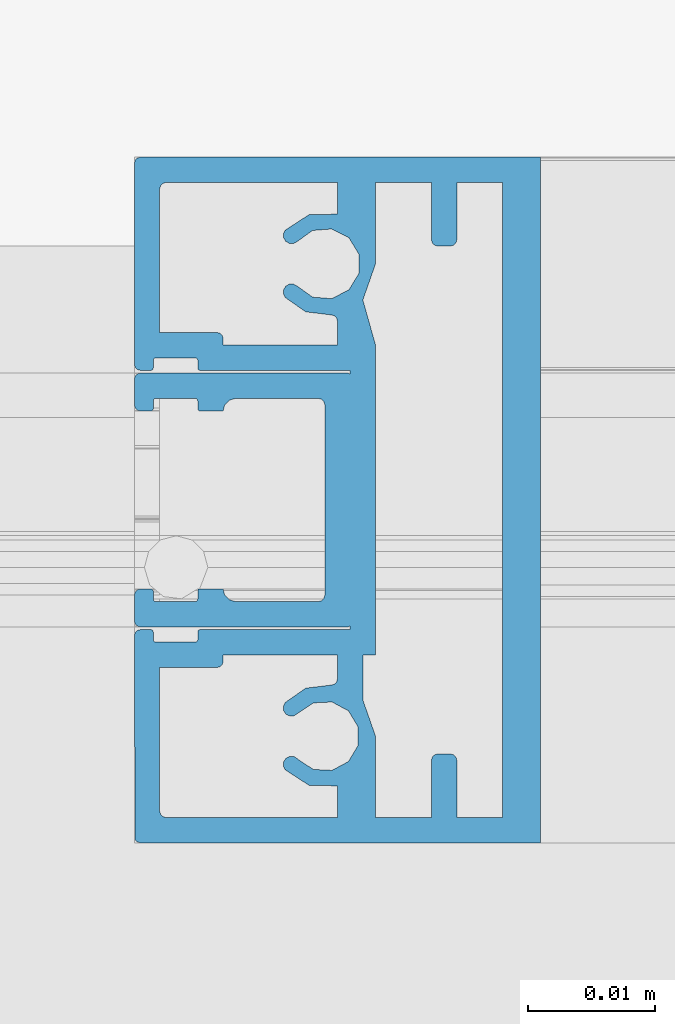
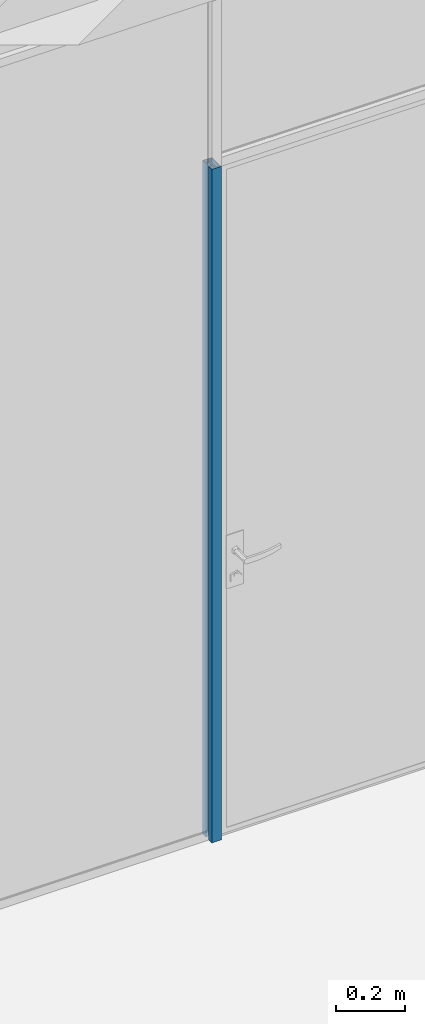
# One storey, part 85 of 387: 1 building element part, 2 elements without a shape of their own.
"""IFC2X3 building model written with IfcOpenShell, lengths in millimetres."""

from ifc_helpers import new_model, entity, si_unit, converted_unit, derived_unit, money_unit, direction, frame, origin_with_axes, place, context, subcontext, project, spatial, faceted_brep, source, transform, mapped, material, type_object, element, aggregate, save


model = new_model("IFC2X3")

# Units and contexts
model_context = context("Model", 3, precision=0.01, world=origin_with_axes(), true_north=direction((0.0, 1.0)))
body_context = subcontext(model_context, "Body", "Model", "MODEL_VIEW")
ifc_project = project(units=[si_unit("LENGTHUNIT", "METRE", prefix="MILLI"), si_unit("AREAUNIT", "SQUARE_METRE"), si_unit("VOLUMEUNIT", "CUBIC_METRE"), converted_unit("PLANEANGLEUNIT", "DEGREE", entity("IfcPlaneAngleMeasure", 0.0174532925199), si_unit("PLANEANGLEUNIT", "RADIAN"), dimensions=[0, 0, 0, 0, 0, 0, 0]), si_unit("SOLIDANGLEUNIT", "STERADIAN"), money_unit("EUR"), converted_unit("TIMEUNIT", "Year", entity("IfcTimeMeasure", 31556926.0), si_unit("TIMEUNIT", "SECOND"), dimensions=[0, 0, 1, 0, 0, 0, 0]), si_unit("MASSUNIT", "GRAM", prefix="KILO"), si_unit("THERMODYNAMICTEMPERATUREUNIT", "DEGREE_CELSIUS"), si_unit("LUMINOUSINTENSITYUNIT", "LUMEN"), si_unit("ENERGYUNIT", "JOULE", prefix="MEGA"), derived_unit("THERMALCONDUCTANCEUNIT", [(si_unit("POWERUNIT", "WATT"), 1), (si_unit("LENGTHUNIT", "METRE"), -1), (si_unit("THERMODYNAMICTEMPERATUREUNIT", "KELVIN"), -1)]), derived_unit("SPECIFICHEATCAPACITYUNIT", [(si_unit("ENERGYUNIT", "JOULE"), 1), (si_unit("MASSUNIT", "GRAM", prefix="KILO"), -1), (si_unit("THERMODYNAMICTEMPERATUREUNIT", "KELVIN"), -1)]), derived_unit("MASSDENSITYUNIT", [(si_unit("MASSUNIT", "GRAM", prefix="KILO"), 1), (si_unit("VOLUMEUNIT", "CUBIC_METRE"), -1)])], contexts=[model_context])

# Site, building, storey
site_placement = place(None, origin_with_axes())
site = spatial("IfcSite", under=ifc_project, at=site_placement, Name="Puškini 31, Narva", CompositionType="ELEMENT")
building_placement = place(site_placement, origin_with_axes())
building = spatial("IfcBuilding", under=site, at=building_placement, Name="Narva Riigigümnaasium", CompositionType="ELEMENT")
storey_placement = place(building_placement, frame((0.0, 0.0, 2640.0), z_axis=(0.0, 0.0, 1.0), x_axis=(1.0, 0.0, 0.0)))
storey = spatial("IfcBuildingStorey", under=building, at=storey_placement, Name="2.korrus +2.64", CompositionType="ELEMENT", Elevation=2640.0)

# Curtain wall, member, building element part
curtain_wall_type = type_object("IfcCurtainWallType", Name="Curtain Wall Type", PredefinedType="NOTDEFINED")
curtain_wall_placement = place(storey_placement, frame((26984.7499996, 181679.973357, -1.33722362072e-05), z_axis=(0.0, 0.0, 1.0), x_axis=(1.0, 0.0, 0.0)))
curtain_wall = element("IfcCurtainWall", 1, at=curtain_wall_placement, inside=storey, type_object=curtain_wall_type, Name="G-SKLF-18")
member_type = type_object("IfcMemberType", Name="32 x 27", PredefinedType="MULLION")
member_placement = place(curtain_wall_placement, frame((345.25, 9.77706804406e-09, 0.0), z_axis=(0.0, 0.0, 1.0), x_axis=(1.0, 0.0, 0.0)))
member = element("IfcMember", 2, at=member_placement, type_object=member_type, Name="G-SKLF-18-raam", ObjectType="MULLION")
aggregate(curtain_wall, [member])
ifc_material = material(Name="ET-04_Alumiinium")
shared_shape = source(origin_with_axes(), body_context, "Body", "Brep", [
    faceted_brep([(31.933012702, 26.75, 0.0), (31.933012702, 26.75, 2400.00001337), (32.0, 10.7, 2400.00001337), (32.0, 10.7, 0.0), (31.7500000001, 26.9330127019, 0.0), (31.7500000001, 26.9330127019, 2400.00001337), (31.5, 27.0, 2400.00001337), (0.0, 27.0, 2400.00001337), (0.0, -27.0, 2400.00001337), (31.5, -27.0, 2400.00001337), (31.75, -26.9330127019, 2400.00001337), (31.9330127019, -26.75, 2400.00001337), (32.0, -26.5, 2400.00001337), (32.0, -10.7, 2400.00001337), (31.9330127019, -10.45, 2400.00001337), (31.75, -10.2669872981, 2400.00001337), (31.5, -10.2, 2400.00001337), (30.7, -10.2, 2400.00001337), (30.6, -10.2267949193, 2400.00001337), (30.5267949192, -10.3, 2400.00001337), (30.5, -10.4, 2400.00001337), (30.5, -11.0, 2400.00001337), (30.4732050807, -11.1, 2400.00001337), (30.4, -11.1732050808, 2400.00001337), (30.3, -11.2, 2400.00001337), (27.2, -11.2, 2400.00001337), (27.1, -11.1732050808, 2400.00001337), (27.0267949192, -11.1, 2400.00001337), (27.0, -11.0, 2400.00001337), (27.0, -10.4000000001, 2400.00001337), (26.9732050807, -10.3000000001, 2400.00001337), (26.8999999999, -10.2267949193, 2400.00001337), (26.7999999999, -10.2000000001, 2400.00001337), (15.0, -10.2, 2400.00001337), (15.0, -9.80000000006, 2400.00001337), (15.0, 9.79999999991, 2400.00001337), (15.0, 10.2, 2400.00001337), (26.8, 10.2, 2400.00001337), (26.9, 10.2267949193, 2400.00001337), (26.9732050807, 10.3, 2400.00001337), (27.0, 10.4, 2400.00001337), (27.0, 11.0, 2400.00001337), (27.0267949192, 11.1, 2400.00001337), (27.1, 11.1732050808, 2400.00001337), (27.2, 11.2, 2400.00001337), (30.3, 11.2, 2400.00001337), (30.4, 11.1732050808, 2400.00001337), (30.4732050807, 11.1, 2400.00001337), (30.5, 11.0, 2400.00001337), (30.5, 10.4, 2400.00001337), (30.5267949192, 10.3, 2400.00001337), (30.6, 10.2267949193, 2400.00001337), (30.7, 10.2, 2400.00001337), (31.5, 10.2, 2400.00001337), (31.75, 10.2669872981, 2400.00001337), (31.9330127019, 10.45, 2400.00001337), (30.0, -13.2, 2400.00001337), (29.9999999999, -24.5, 2400.00001337), (29.9330127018, -24.75, 2400.00001337), (29.7499999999, -24.9330127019, 2400.00001337), (29.4999999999, -25.0, 2400.00001337), (16.0, -25.0, 2400.00001337), (16.0, -22.5115214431, 2400.00001337), (18.2324976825, -22.4735254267, 2400.00001337), (20.1055788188, -21.2581832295, 2400.00001337), (20.2508755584, -20.9704117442, 2400.00001337), (20.2400388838, -20.6482221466, 2400.00001337), (20.0757343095, -20.3708639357, 2400.00001337), (19.7983760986, -20.2065593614, 2400.00001337), (19.476186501, -20.1957226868, 2400.00001337), (19.1884150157, -20.3410194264, 2400.00001337), (17.9594363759, -21.2262649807, 2400.00001337), (16.4491363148, -21.3404661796, 2400.00001337), (15.101017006, -20.6500876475, 2400.00001337), (14.3109559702, -19.3578602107, 2400.00001337), (14.3109559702, -17.8432486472, 2400.00001337), (15.101017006, -16.5510212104, 2400.00001337), (16.4491363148, -15.8606426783, 2400.00001337), (17.9594363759, -15.9748438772, 2400.00001337), (19.1884150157, -16.8600894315, 2400.00001337), (19.4768504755, -17.0081043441, 2400.00001337), (19.8009019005, -16.9984036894, 2400.00001337), (20.0799669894, -16.8334003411, 2400.00001337), (20.2446330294, -16.5541360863, 2400.00001337), (20.2539421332, -16.2300731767, 2400.00001337), (20.1055788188, -15.9418167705, 2400.00001337), (18.5025683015, -14.8194517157, 2400.00001337), (16.5604395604, -14.5796977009, 2400.00001337), (16.2857576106, -14.5351385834, 2400.00001337), (16.0774356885, -14.3506455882, 2400.00001337), (16.0, -14.0833640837, 2400.00001337), (16.0, -12.2, 2400.00001337), (25.0, -12.2, 2400.00001337), (25.0, -12.7, 2400.00001337), (25.0669872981, -12.95, 2400.00001337), (25.25, -13.1330127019, 2400.00001337), (25.5, -13.2, 2400.00001337), (30.0, 13.2, 2400.00001337), (25.5, 13.2, 2400.00001337), (25.25, 13.1330127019, 2400.00001337), (25.0669872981, 12.95, 2400.00001337), (25.0, 12.7, 2400.00001337), (25.0, 12.2, 2400.00001337), (16.0, 12.2, 2400.00001337), (16.0, 14.0833640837, 2400.00001337), (16.0774356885, 14.3506455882, 2400.00001337), (16.2857576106, 14.5351385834, 2400.00001337), (16.5604395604, 14.5796977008, 2400.00001337), (18.5025683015, 14.8194517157, 2400.00001337), (20.1055788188, 15.9418167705, 2400.00001337), (20.2591463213, 16.2452813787, 2400.00001337), (20.2384633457, 16.5847603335, 2400.00001337), (20.0491908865, 16.8673371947, 2400.00001337), (19.7431334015, 17.0156698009, 2400.00001337), (19.4040597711, 16.9891590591, 2400.00001337), (19.1247754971, 16.7950610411, 2400.00001337), (17.9010883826, 15.9799828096, 2400.00001337), (16.4324884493, 15.9094355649, 2400.00001337), (15.1363081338, 16.6034667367, 2400.00001337), (14.3808833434, 17.8648533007, 2400.00001337), (14.3808833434, 19.3351466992, 2400.00001337), (15.1363081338, 20.5965332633, 2400.00001337), (16.4324884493, 21.290564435, 2400.00001337), (17.9010883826, 21.2200171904, 2400.00001337), (19.1247754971, 20.4049389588, 2400.00001337), (19.4040367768, 20.2113893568, 2400.00001337), (19.7428001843, 20.185166, 2400.00001337), (20.0485211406, 20.3334326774, 2400.00001337), (20.2376817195, 20.6156853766, 2400.00001337), (20.2586063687, 20.9548173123, 2400.00001337), (20.1055788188, 21.2581832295, 2400.00001337), (18.2324976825, 22.4735254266, 2400.00001337), (16.0, 22.5115214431, 2400.00001337), (16.0, 25.0, 2400.00001337), (29.5, 25.0, 2400.00001337), (29.75, 24.9330127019, 2400.00001337), (29.9330127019, 24.75, 2400.00001337), (30.0, 24.5, 2400.00001337), (14.0, -15.7539501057, 2400.00001337), (13.8901098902, -16.0667028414, 2400.00001337), (13.0, -18.6, 2400.00001337), (13.0, -25.0, 2400.00001337), (8.59999999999, -25.0, 2400.00001337), (8.59999999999, -20.5, 2400.00001337), (8.53301270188, -20.25, 2400.00001337), (8.34999999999, -20.0669872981, 2400.00001337), (8.09999999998, -20.0, 2400.00001337), (7.1, -20.0000000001, 2400.00001337), (6.85, -20.0669872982, 2400.00001337), (6.66698729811, -20.25, 2400.00001337), (6.6, -20.5, 2400.00001337), (6.6, -25.0, 2400.00001337), (3.0, -25.0, 2400.00001337), (3.0, 25.0, 2400.00001337), (6.6, 25.0, 2400.00001337), (6.6, 20.5, 2400.00001337), (6.6669872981, 20.25, 2400.00001337), (6.85, 20.0669872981, 2400.00001337), (7.09999999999, 20.0, 2400.00001337), (8.09999999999, 20.0, 2400.00001337), (8.34999999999, 20.0669872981, 2400.00001337), (8.53301270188, 20.25, 2400.00001337), (8.59999999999, 20.5, 2400.00001337), (8.59999999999, 25.0, 2400.00001337), (13.0, 25.0, 2400.00001337), (13.0, 18.6, 2400.00001337), (13.8901098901, 16.0667028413, 2400.00001337), (14.0, 15.7539501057, 2400.00001337), (14.0, 12.2, 2400.00001337), (13.0, 12.2, 2400.00001337), (13.0, -12.2, 2400.00001337), (31.9330127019, 10.45, 0.0), (31.75, 10.2669872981, 0.0), (31.5, 10.2, 0.0), (30.7, 10.2, 0.0), (30.6, 10.2267949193, 0.0), (30.5267949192, 10.3, 0.0), (30.5, 10.4, 0.0), (30.5, 11.0, 0.0), (30.4732050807, 11.1, 0.0), (30.4, 11.1732050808, 0.0), (30.3, 11.2, 0.0), (27.2, 11.2, 0.0), (27.1, 11.1732050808, 0.0), (27.0267949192, 11.1, 0.0), (27.0, 11.0, 0.0), (27.0, 10.4, 0.0), (26.9732050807, 10.3, 0.0), (26.9, 10.2267949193, 0.0), (26.8, 10.2, 0.0), (15.0, 10.2, 0.0), (15.0, 9.79999999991, 0.0), (15.0, -9.80000000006, 0.0), (15.0, -10.2, 0.0), (26.7999999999, -10.2000000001, 0.0), (26.8999999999, -10.2267949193, 0.0), (26.9732050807, -10.3000000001, 0.0), (27.0, -10.4000000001, 0.0), (27.0, -11.0, 0.0), (27.0267949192, -11.1, 0.0), (27.1, -11.1732050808, 0.0), (27.2, -11.2, 0.0), (30.3, -11.2, 0.0), (30.4, -11.1732050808, 0.0), (30.4732050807, -11.1, 0.0), (30.5, -11.0, 0.0), (30.5, -10.4, 0.0), (30.5267949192, -10.3, 0.0), (30.6, -10.2267949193, 0.0), (30.7, -10.2, 0.0), (31.5, -10.2, 0.0), (31.75, -10.2669872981, 0.0), (31.9330127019, -10.45, 0.0), (32.0, -10.7, 0.0), (32.0, -26.5, 0.0), (31.9330127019, -26.75, 0.0), (31.75, -26.9330127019, 0.0), (31.5, -27.0, 0.0), (0.0, -27.0, 0.0), (0.0, 27.0, 0.0), (31.5, 27.0, 0.0), (30.0, -13.2, 0.0), (25.5, -13.2, 0.0), (25.25, -13.1330127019, 0.0), (25.0669872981, -12.95, 0.0), (25.0, -12.7, 0.0), (25.0, -12.2, 0.0), (16.0, -12.2, 0.0), (16.0, -14.0833640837, 0.0), (16.0774356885, -14.3506455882, 0.0), (16.2857576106, -14.5351385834, 0.0), (16.5604395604, -14.5796977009, 0.0), (18.5025683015, -14.8194517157, 0.0), (20.1055788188, -15.9418167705, 0.0), (20.2539421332, -16.2300731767, 0.0), (20.2446330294, -16.5541360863, 0.0), (20.0799669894, -16.8334003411, 0.0), (19.8009019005, -16.9984036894, 0.0), (19.4768504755, -17.0081043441, 0.0), (19.1884150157, -16.8600894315, 0.0), (17.9594363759, -15.9748438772, 0.0), (16.4491363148, -15.8606426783, 0.0), (15.101017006, -16.5510212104, 0.0), (14.3109559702, -17.8432486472, 0.0), (14.3109559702, -19.3578602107, 0.0), (15.101017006, -20.6500876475, 0.0), (16.4491363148, -21.3404661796, 0.0), (17.9594363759, -21.2262649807, 0.0), (19.1884150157, -20.3410194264, 0.0), (19.476186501, -20.1957226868, 0.0), (19.7983760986, -20.2065593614, 0.0), (20.0757343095, -20.3708639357, 0.0), (20.2400388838, -20.6482221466, 0.0), (20.2508755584, -20.9704117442, 0.0), (20.1055788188, -21.2581832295, 0.0), (18.2324976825, -22.4735254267, 0.0), (16.0, -22.5115214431, 0.0), (16.0, -25.0, 0.0), (29.4999999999, -25.0, 0.0), (29.7499999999, -24.9330127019, 0.0), (29.9330127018, -24.75, 0.0), (29.9999999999, -24.5, 0.0), (30.0, 13.2, 0.0), (30.0, 24.5, 0.0), (29.9330127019, 24.75, 0.0), (29.75, 24.9330127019, 0.0), (29.5, 25.0, 0.0), (16.0, 25.0, 0.0), (16.0, 22.5115214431, 0.0), (18.2324976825, 22.4735254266, 0.0), (20.1055788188, 21.2581832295, 0.0), (20.2586063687, 20.9548173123, 0.0), (20.2376817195, 20.6156853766, 0.0), (20.0485211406, 20.3334326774, 0.0), (19.7428001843, 20.185166, 0.0), (19.4040367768, 20.2113893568, 0.0), (19.1247754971, 20.4049389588, 0.0), (17.9010883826, 21.2200171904, 0.0), (16.4324884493, 21.290564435, 0.0), (15.1363081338, 20.5965332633, 0.0), (14.3808833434, 19.3351466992, 0.0), (14.3808833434, 17.8648533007, 0.0), (15.1363081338, 16.6034667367, 0.0), (16.4324884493, 15.9094355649, 0.0), (17.9010883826, 15.9799828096, 0.0), (19.1247754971, 16.7950610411, 0.0), (19.4040597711, 16.9891590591, 0.0), (19.7431334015, 17.0156698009, 0.0), (20.0491908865, 16.8673371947, 0.0), (20.2384633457, 16.5847603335, 0.0), (20.2591463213, 16.2452813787, 0.0), (20.1055788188, 15.9418167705, 0.0), (18.5025683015, 14.8194517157, 0.0), (16.5604395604, 14.5796977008, 0.0), (16.2857576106, 14.5351385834, 0.0), (16.0774356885, 14.3506455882, 0.0), (16.0, 14.0833640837, 0.0), (16.0, 12.2, 0.0), (25.0, 12.2, 0.0), (25.0, 12.7, 0.0), (25.0669872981, 12.95, 0.0), (25.25, 13.1330127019, 0.0), (25.5, 13.2, 0.0), (14.0, -15.7539501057, 0.0), (13.0, -12.2, 0.0), (13.0, 12.2, 0.0), (14.0, 12.2, 0.0), (14.0, 15.7539501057, 0.0), (13.8901098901, 16.0667028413, 0.0), (13.0, 18.6, 0.0), (13.0, 25.0, 0.0), (8.59999999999, 25.0, 0.0), (8.59999999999, 20.5, 0.0), (8.53301270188, 20.25, 0.0), (8.34999999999, 20.0669872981, 0.0), (8.09999999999, 20.0, 0.0), (7.09999999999, 20.0, 0.0), (6.85, 20.0669872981, 0.0), (6.6669872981, 20.25, 0.0), (6.6, 20.5, 0.0), (6.6, 25.0, 0.0), (3.0, 25.0, 0.0), (3.0, -25.0, 0.0), (6.6, -25.0, 0.0), (6.6, -20.5, 0.0), (6.66698729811, -20.25, 0.0), (6.85, -20.0669872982, 0.0), (7.1, -20.0000000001, 0.0), (8.09999999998, -20.0, 0.0), (8.34999999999, -20.0669872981, 0.0), (8.53301270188, -20.25, 0.0), (8.59999999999, -20.5, 0.0), (8.59999999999, -25.0, 0.0), (13.0, -25.0, 0.0), (13.0, -18.6, 0.0), (13.8901098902, -16.0667028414, 0.0)], [[[0, 1, 2, 3]], [[4, 5, 1, 0]], [[1, 5, 6, 7, 8, 9, 10, 11, 12, 13, 14, 15, 16, 17, 18, 19, 20, 21, 22, 23, 24, 25, 26, 27, 28, 29, 30, 31, 32, 33, 34, 35, 36, 37, 38, 39, 40, 41, 42, 43, 44, 45, 46, 47, 48, 49, 50, 51, 52, 53, 54, 55, 2], [56, 57, 58, 59, 60, 61, 62, 63, 64, 65, 66, 67, 68, 69, 70, 71, 72, 73, 74, 75, 76, 77, 78, 79, 80, 81, 82, 83, 84, 85, 86, 87, 88, 89, 90, 91, 92, 93, 94, 95, 96], [97, 98, 99, 100, 101, 102, 103, 104, 105, 106, 107, 108, 109, 110, 111, 112, 113, 114, 115, 116, 117, 118, 119, 120, 121, 122, 123, 124, 125, 126, 127, 128, 129, 130, 131, 132, 133, 134, 135, 136, 137], [138, 139, 140, 141, 142, 143, 144, 145, 146, 147, 148, 149, 150, 151, 152, 153, 154, 155, 156, 157, 158, 159, 160, 161, 162, 163, 164, 165, 166, 167, 168, 169, 170]], [[3, 2, 55, 171]], [[0, 3, 171, 172, 173, 174, 175, 176, 177, 178, 179, 180, 181, 182, 183, 184, 185, 186, 187, 188, 189, 190, 191, 192, 193, 194, 195, 196, 197, 198, 199, 200, 201, 202, 203, 204, 205, 206, 207, 208, 209, 210, 211, 212, 213, 214, 215, 216, 217, 218, 219, 220, 4], [221, 222, 223, 224, 225, 226, 227, 228, 229, 230, 231, 232, 233, 234, 235, 236, 237, 238, 239, 240, 241, 242, 243, 244, 245, 246, 247, 248, 249, 250, 251, 252, 253, 254, 255, 256, 257, 258, 259, 260, 261], [262, 263, 264, 265, 266, 267, 268, 269, 270, 271, 272, 273, 274, 275, 276, 277, 278, 279, 280, 281, 282, 283, 284, 285, 286, 287, 288, 289, 290, 291, 292, 293, 294, 295, 296, 297, 298, 299, 300, 301, 302], [303, 304, 305, 306, 307, 308, 309, 310, 311, 312, 313, 314, 315, 316, 317, 318, 319, 320, 321, 322, 323, 324, 325, 326, 327, 328, 329, 330, 331, 332, 333, 334, 335]], [[220, 6, 5, 4]], [[219, 7, 6, 220]], [[218, 8, 7, 219]], [[217, 9, 8, 218]], [[216, 10, 9, 217]], [[215, 11, 10, 216]], [[214, 12, 11, 215]], [[213, 13, 12, 214]], [[212, 14, 13, 213]], [[211, 15, 14, 212]], [[210, 16, 15, 211]], [[209, 17, 16, 210]], [[208, 18, 17, 209]], [[207, 19, 18, 208]], [[206, 20, 19, 207]], [[205, 21, 20, 206]], [[204, 22, 21, 205]], [[203, 23, 22, 204]], [[202, 24, 23, 203]], [[201, 25, 24, 202]], [[200, 26, 25, 201]], [[199, 27, 26, 200]], [[198, 28, 27, 199]], [[197, 29, 28, 198]], [[196, 30, 29, 197]], [[195, 31, 30, 196]], [[194, 32, 31, 195]], [[193, 33, 32, 194]], [[192, 34, 33, 193]], [[191, 35, 34, 192]], [[190, 36, 35, 191]], [[189, 37, 36, 190]], [[188, 38, 37, 189]], [[187, 39, 38, 188]], [[186, 40, 39, 187]], [[185, 41, 40, 186]], [[184, 42, 41, 185]], [[183, 43, 42, 184]], [[182, 44, 43, 183]], [[181, 45, 44, 182]], [[180, 46, 45, 181]], [[179, 47, 46, 180]], [[178, 48, 47, 179]], [[177, 49, 48, 178]], [[176, 50, 49, 177]], [[175, 51, 50, 176]], [[174, 52, 51, 175]], [[173, 53, 52, 174]], [[172, 54, 53, 173]], [[171, 55, 54, 172]], [[261, 57, 56, 221]], [[260, 58, 57, 261]], [[259, 59, 58, 260]], [[258, 60, 59, 259]], [[257, 61, 60, 258]], [[256, 62, 61, 257]], [[255, 63, 62, 256]], [[254, 64, 63, 255]], [[253, 65, 64, 254]], [[252, 66, 65, 253]], [[251, 67, 66, 252]], [[250, 68, 67, 251]], [[249, 69, 68, 250]], [[248, 70, 69, 249]], [[247, 71, 70, 248]], [[246, 72, 71, 247]], [[245, 73, 72, 246]], [[244, 74, 73, 245]], [[243, 75, 74, 244]], [[242, 76, 75, 243]], [[241, 77, 76, 242]], [[240, 78, 77, 241]], [[239, 79, 78, 240]], [[238, 80, 79, 239]], [[237, 81, 80, 238]], [[236, 82, 81, 237]], [[235, 83, 82, 236]], [[234, 84, 83, 235]], [[233, 85, 84, 234]], [[232, 86, 85, 233]], [[231, 87, 86, 232]], [[230, 88, 87, 231]], [[229, 89, 88, 230]], [[228, 90, 89, 229]], [[227, 91, 90, 228]], [[226, 92, 91, 227]], [[225, 93, 92, 226]], [[224, 94, 93, 225]], [[223, 95, 94, 224]], [[222, 96, 95, 223]], [[221, 56, 96, 222]], [[302, 98, 97, 262]], [[301, 99, 98, 302]], [[300, 100, 99, 301]], [[299, 101, 100, 300]], [[298, 102, 101, 299]], [[297, 103, 102, 298]], [[296, 104, 103, 297]], [[295, 105, 104, 296]], [[294, 106, 105, 295]], [[293, 107, 106, 294]], [[292, 108, 107, 293]], [[291, 109, 108, 292]], [[290, 110, 109, 291]], [[289, 111, 110, 290]], [[288, 112, 111, 289]], [[287, 113, 112, 288]], [[286, 114, 113, 287]], [[285, 115, 114, 286]], [[284, 116, 115, 285]], [[283, 117, 116, 284]], [[282, 118, 117, 283]], [[281, 119, 118, 282]], [[280, 120, 119, 281]], [[279, 121, 120, 280]], [[278, 122, 121, 279]], [[277, 123, 122, 278]], [[276, 124, 123, 277]], [[275, 125, 124, 276]], [[274, 126, 125, 275]], [[273, 127, 126, 274]], [[272, 128, 127, 273]], [[271, 129, 128, 272]], [[270, 130, 129, 271]], [[269, 131, 130, 270]], [[268, 132, 131, 269]], [[267, 133, 132, 268]], [[266, 134, 133, 267]], [[265, 135, 134, 266]], [[264, 136, 135, 265]], [[263, 137, 136, 264]], [[262, 97, 137, 263]], [[335, 139, 138, 303]], [[334, 140, 139, 335]], [[333, 141, 140, 334]], [[332, 142, 141, 333]], [[331, 143, 142, 332]], [[330, 144, 143, 331]], [[329, 145, 144, 330]], [[328, 146, 145, 329]], [[327, 147, 146, 328]], [[326, 148, 147, 327]], [[325, 149, 148, 326]], [[324, 150, 149, 325]], [[323, 151, 150, 324]], [[322, 152, 151, 323]], [[321, 153, 152, 322]], [[320, 154, 153, 321]], [[319, 155, 154, 320]], [[318, 156, 155, 319]], [[317, 157, 156, 318]], [[316, 158, 157, 317]], [[315, 159, 158, 316]], [[314, 160, 159, 315]], [[313, 161, 160, 314]], [[312, 162, 161, 313]], [[311, 163, 162, 312]], [[310, 164, 163, 311]], [[309, 165, 164, 310]], [[308, 166, 165, 309]], [[307, 167, 166, 308]], [[306, 168, 167, 307]], [[305, 169, 168, 306]], [[304, 170, 169, 305]], [[303, 138, 170, 304]]]),
    faceted_brep([(15.0, -9.80000000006, 0.0), (15.0, -9.80000000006, 2400.00001337), (15.0267949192, 9.89999999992, 2400.00001337), (15.0267949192, 9.89999999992, 0.0), (15.0267949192, -9.90000000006, 0.0), (15.0267949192, -9.90000000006, 2400.00001337), (15.1, -9.97320508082, 2400.00001337), (15.2, -10.0000000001, 2400.00001337), (31.5, -10.0000000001, 2400.00001337), (31.75, -9.93301270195, 2400.00001337), (31.9330127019, -9.75000000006, 2400.00001337), (32.0, -9.50000000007, 2400.00001337), (32.0, -7.50000000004, 2400.00001337), (31.9330127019, -7.25000000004, 2400.00001337), (31.75, -7.06698729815, 2400.00001337), (31.5, -7.00000000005, 2400.00001337), (30.7, -7.00000000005, 2400.00001337), (30.6, -7.02679491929, 2400.00001337), (30.5267949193, -7.10000000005, 2400.00001337), (30.5, -7.20000000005, 2400.00001337), (30.5, -7.80000000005, 2400.00001337), (30.4732050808, -7.90000000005, 2400.00001337), (30.4, -7.97320508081, 2400.00001337), (30.3, -8.00000000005, 2400.00001337), (27.2, -8.00000000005, 2400.00001337), (27.1, -7.97320508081, 2400.00001337), (27.0267949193, -7.90000000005, 2400.00001337), (27.0, -7.80000000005, 2400.00001337), (27.0, -7.20000000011, 2400.00001337), (26.9732050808, -7.10000000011, 2400.00001337), (26.9, -7.02679491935, 2400.00001337), (26.8, -7.0000000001, 2400.00001337), (25.0092559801, -6.99999999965, 2400.00001337), (24.8752813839, -7.49999999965, 2400.00001337), (24.5092559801, -7.86602540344, 2400.00001337), (24.0092559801, -7.99999999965, 2400.00001337), (17.5, -7.99999999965, 2400.00001337), (17.25, -7.93301270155, 2400.00001337), (17.0669872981, -7.74999999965, 2400.00001337), (17.0, -7.49999999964, 2400.00001337), (17.0, 7.4999999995, 2400.00001337), (17.0669872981, 7.74999999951, 2400.00001337), (17.25, 7.9330127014, 2400.00001337), (17.5, 7.99999999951, 2400.00001337), (24.0092559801, 7.99999999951, 2400.00001337), (24.5092559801, 7.8660254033, 2400.00001337), (24.8752813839, 7.49999999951, 2400.00001337), (25.0092559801, 6.99999999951, 2400.00001337), (26.8568724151, 6.99999999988, 2400.00001337), (27.0, 6.99999999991, 2400.00001337), (27.0, 7.14458302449, 2400.00001337), (27.0, 7.79999999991, 2400.00001337), (27.0267949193, 7.89999999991, 2400.00001337), (27.1, 7.97320508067, 2400.00001337), (27.2, 7.99999999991, 2400.00001337), (30.3, 7.99999999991, 2400.00001337), (30.4, 7.97320508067, 2400.00001337), (30.4732050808, 7.89999999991, 2400.00001337), (30.5, 7.7999999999, 2400.00001337), (30.5, 7.19999999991, 2400.00001337), (30.5267949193, 7.09999999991, 2400.00001337), (30.6, 7.02679491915, 2400.00001337), (30.7, 6.99999999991, 2400.00001337), (31.5, 6.99999999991, 2400.00001337), (31.75, 7.06698729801, 2400.00001337), (31.9330127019, 7.24999999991, 2400.00001337), (32.0, 7.49999999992, 2400.00001337), (32.0, 9.49999999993, 2400.00001337), (31.9330127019, 9.74999999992, 2400.00001337), (31.75, 9.93301270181, 2400.00001337), (31.5, 9.99999999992, 2400.00001337), (15.2, 9.99999999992, 2400.00001337), (15.1, 9.97320508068, 2400.00001337), (15.1, 9.97320508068, 0.0), (15.2, 9.99999999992, 0.0), (31.5, 9.99999999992, 0.0), (31.75, 9.93301270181, 0.0), (31.9330127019, 9.74999999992, 0.0), (32.0, 9.49999999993, 0.0), (32.0, 7.49999999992, 0.0), (31.9330127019, 7.24999999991, 0.0), (31.75, 7.06698729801, 0.0), (31.5, 6.99999999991, 0.0), (30.7, 6.99999999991, 0.0), (30.6, 7.02679491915, 0.0), (30.5267949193, 7.09999999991, 0.0), (30.5, 7.19999999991, 0.0), (30.5, 7.7999999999, 0.0), (30.4732050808, 7.89999999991, 0.0), (30.4, 7.97320508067, 0.0), (30.3, 7.99999999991, 0.0), (27.2, 7.99999999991, 0.0), (27.1, 7.97320508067, 0.0), (27.0267949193, 7.89999999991, 0.0), (27.0, 7.79999999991, 0.0), (27.0, 7.14458302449, 0.0), (27.0, 6.99999999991, 0.0), (26.8568724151, 6.99999999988, 0.0), (25.0092559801, 6.99999999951, 0.0), (24.8752813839, 7.49999999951, 0.0), (24.5092559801, 7.8660254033, 0.0), (24.0092559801, 7.99999999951, 0.0), (17.5, 7.99999999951, 0.0), (17.25, 7.9330127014, 0.0), (17.0669872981, 7.74999999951, 0.0), (17.0, 7.4999999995, 0.0), (17.0, -7.49999999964, 0.0), (17.0669872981, -7.74999999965, 0.0), (17.25, -7.93301270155, 0.0), (17.5, -7.99999999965, 0.0), (24.0092559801, -7.99999999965, 0.0), (24.5092559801, -7.86602540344, 0.0), (24.8752813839, -7.49999999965, 0.0), (25.0092559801, -6.99999999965, 0.0), (26.8, -7.0000000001, 0.0), (26.9, -7.02679491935, 0.0), (26.9732050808, -7.10000000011, 0.0), (27.0, -7.20000000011, 0.0), (27.0, -7.80000000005, 0.0), (27.0267949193, -7.90000000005, 0.0), (27.1, -7.97320508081, 0.0), (27.2, -8.00000000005, 0.0), (30.3, -8.00000000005, 0.0), (30.4, -7.97320508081, 0.0), (30.4732050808, -7.90000000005, 0.0), (30.5, -7.80000000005, 0.0), (30.5, -7.20000000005, 0.0), (30.5267949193, -7.10000000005, 0.0), (30.6, -7.02679491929, 0.0), (30.7, -7.00000000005, 0.0), (31.5, -7.00000000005, 0.0), (31.75, -7.06698729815, 0.0), (31.9330127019, -7.25000000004, 0.0), (32.0, -7.50000000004, 0.0), (32.0, -9.50000000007, 0.0), (31.9330127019, -9.75000000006, 0.0), (31.75, -9.93301270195, 0.0), (31.5, -10.0000000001, 0.0), (15.2, -10.0000000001, 0.0), (15.1, -9.97320508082, 0.0)], [[[0, 1, 2, 3]], [[4, 5, 1, 0]], [[1, 5, 6, 7, 8, 9, 10, 11, 12, 13, 14, 15, 16, 17, 18, 19, 20, 21, 22, 23, 24, 25, 26, 27, 28, 29, 30, 31, 32, 33, 34, 35, 36, 37, 38, 39, 40, 41, 42, 43, 44, 45, 46, 47, 48, 49, 50, 51, 52, 53, 54, 55, 56, 57, 58, 59, 60, 61, 62, 63, 64, 65, 66, 67, 68, 69, 70, 71, 72, 2]], [[3, 2, 72, 73]], [[0, 3, 73, 74, 75, 76, 77, 78, 79, 80, 81, 82, 83, 84, 85, 86, 87, 88, 89, 90, 91, 92, 93, 94, 95, 96, 97, 98, 99, 100, 101, 102, 103, 104, 105, 106, 107, 108, 109, 110, 111, 112, 113, 114, 115, 116, 117, 118, 119, 120, 121, 122, 123, 124, 125, 126, 127, 128, 129, 130, 131, 132, 133, 134, 135, 136, 137, 138, 139, 4]], [[139, 6, 5, 4]], [[138, 7, 6, 139]], [[137, 8, 7, 138]], [[136, 9, 8, 137]], [[135, 10, 9, 136]], [[134, 11, 10, 135]], [[133, 12, 11, 134]], [[132, 13, 12, 133]], [[131, 14, 13, 132]], [[130, 15, 14, 131]], [[129, 16, 15, 130]], [[128, 17, 16, 129]], [[127, 18, 17, 128]], [[126, 19, 18, 127]], [[125, 20, 19, 126]], [[124, 21, 20, 125]], [[123, 22, 21, 124]], [[122, 23, 22, 123]], [[121, 24, 23, 122]], [[120, 25, 24, 121]], [[119, 26, 25, 120]], [[118, 27, 26, 119]], [[117, 28, 27, 118]], [[116, 29, 28, 117]], [[115, 30, 29, 116]], [[114, 31, 30, 115]], [[113, 32, 31, 114]], [[112, 33, 32, 113]], [[111, 34, 33, 112]], [[110, 35, 34, 111]], [[109, 36, 35, 110]], [[108, 37, 36, 109]], [[107, 38, 37, 108]], [[106, 39, 38, 107]], [[105, 40, 39, 106]], [[104, 41, 40, 105]], [[103, 42, 41, 104]], [[102, 43, 42, 103]], [[101, 44, 43, 102]], [[100, 45, 44, 101]], [[99, 46, 45, 100]], [[98, 47, 46, 99]], [[97, 48, 47, 98]], [[96, 49, 48, 97]], [[95, 50, 49, 96]], [[94, 51, 50, 95]], [[93, 52, 51, 94]], [[92, 53, 52, 93]], [[91, 54, 53, 92]], [[90, 55, 54, 91]], [[89, 56, 55, 90]], [[88, 57, 56, 89]], [[87, 58, 57, 88]], [[86, 59, 58, 87]], [[85, 60, 59, 86]], [[84, 61, 60, 85]], [[83, 62, 61, 84]], [[82, 63, 62, 83]], [[81, 64, 63, 82]], [[80, 65, 64, 81]], [[79, 66, 65, 80]], [[78, 67, 66, 79]], [[77, 68, 67, 78]], [[76, 69, 68, 77]], [[75, 70, 69, 76]], [[74, 71, 70, 75]], [[73, 72, 71, 74]]]),
])
building_element_part_placement = place(member_placement, origin_with_axes())
building_element_part = element("IfcBuildingElementPart", 3, at=building_element_part_placement, material=ifc_material, Name="ET-04_Alumiinium", context=body_context, shape_type="MappedRepresentation", body=[
    mapped(shared_shape, transform((0.0, 0.0, 0.0), x_axis=(-1.0, 0.0, 0.0), y_axis=(0.0, -1.0, 0.0), z_axis=(0.0, 0.0, 1.0))),
])
aggregate(member, [building_element_part])

save(model, "model.ifc")
